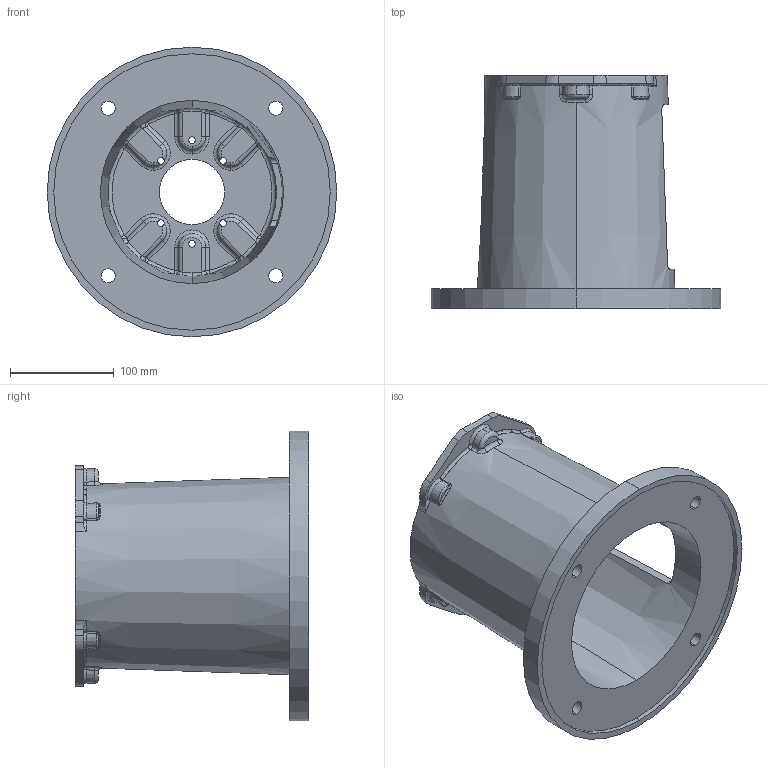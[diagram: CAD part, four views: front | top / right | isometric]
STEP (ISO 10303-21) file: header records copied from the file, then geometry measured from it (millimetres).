
FILE_DESCRIPTION (( 'STEP AP203' ), '1' );
FILE_NAME ('M2848663M.STEP', '2015-01-19T16:29:33', ( '' ), ( '' ), 'SwSTEP 2.0', 'SolidWorks 2014', '' );
FILE_SCHEMA (( 'CONFIG_CONTROL_DESIGN' ));
Length unit declared in the file: inch
Products named in the file (1): M2848663M
Bounding box: 279.4 x 225.3 x 279.4 mm (x, y, z)
Volume: 1585889.3 mm3; surface area: 361157.7 mm2
Topology: 1 solids, 1 shells, 346 faces, 884 edges, 519 vertices
Faces by surface type: torus 105, cylinder 86, bspline 64, plane 45, sphere 24, cone 22
Entity records: 14277 total; most frequent: CARTESIAN_POINT 6290, ORIENTED_EDGE 1728, DIRECTION 1666, EDGE_CURVE 864, AXIS2_PLACEMENT_3D 753, VERTEX_POINT 519, CIRCLE 470, EDGE_LOOP 369
